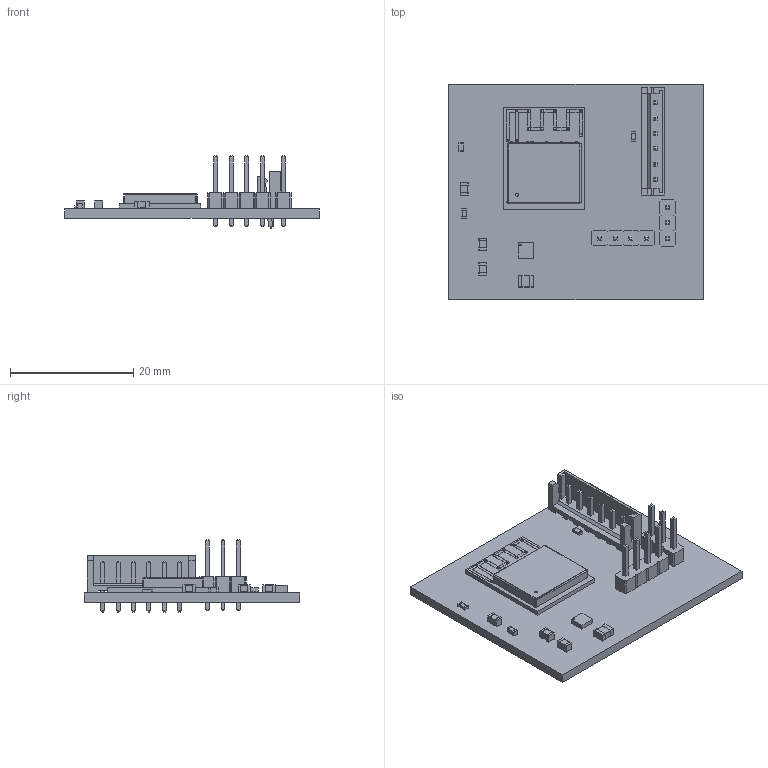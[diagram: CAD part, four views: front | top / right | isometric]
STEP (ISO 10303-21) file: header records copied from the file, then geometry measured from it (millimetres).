
FILE_DESCRIPTION(('KiCad electronic assembly'),'2;1');
FILE_NAME('Vent.step','2026-06-02T09:10:04',('Pcbnew'),('Kicad'), 'Open CASCADE STEP processor 7.9','KiCad to STEP converter','Unknown' );
FILE_SCHEMA(('AUTOMOTIVE_DESIGN { 1 0 10303 214 1 1 1 1 }'));
Length unit declared in the file: millimetre
Products named in the file (384): Vent 1; ESP32-H2-MINI-1; PCB_ESP32-C3-MINI-1_V1(2)^PCB_ESP32-C3-MINI-1_V1; DesignRootModel^PCB_ESP32-C3-MINI-1_V1(2)_PCB_ESP32-C3-MINI-1_V1; Submodel-SOD882_part^DesignRootModel_PCB_ESP32-C3-MINI-1_V1(2)_PCB_
ESP32-C3-MINI-1_V1; DFN1006.STEP^Submodel-SOD882_part_DesignRootModel_PCB_ESP32-C3-MINI-1_
V1(2)_PCB_ESP32-C3-MINI-1_V1; DFN1006.STEP^DFN1006.STEP_Submodel-SOD882_part_DesignRootModel_PCB_
ESP32-C3-MINI-1_V1(2)_PCB_ESP32-C3-MINI-1_V1; Submodel-R0201_part^DesignRootModel_PCB_ESP32-C3-MINI-1_V1(2)_PCB_
ESP32-C3-MINI-1_V1; R0201_20210301.STEP^Submodel-R0201_part_DesignRootModel_PCB_
ESP32-C3-MINI-1_V1(2)_PCB_ESP32-C3-MINI-1_V1; R0201_20210301.STEP^R0201_20210301.STEP_Submodel-R0201_part_
DesignRootModel_PCB_ESP32-C3-MINI-1_V1(2)_PCB_ESP32-C3-MINI-1_V1; Submodel-MINI-ANT-TYPED-H_1968823293_part^DesignRootModel_PCB_
ESP32-C3-MINI-1_V1(2)_PCB_ESP32-C3-MINI-1_V1; Submodel-noModelForPart_MINI-ANT-TYPED-H_
1968823293^Submodel-MINI-ANT-TYPED-H_1968823293_part_DesignRootModel_
PCB_ESP32-C3-MINI-1_V1(2)_PCB_ESP32-C3-MINI-1_V1; placementOutline^Submodel-noModelForPart_MINI-ANT-TYPED-H_1968823293_
Submodel-MINI-ANT-TYPED-H_1968823293_part_DesignRootModel_PCB_
ESP32-C3-MINI-1_V1(2)_PCB_ESP32-C3-MINI-1_V1; placementOutline-0^Submodel-noModelForPart_MINI-ANT-TYPED-H_1968823293_
Submodel-MINI-ANT-TYPED-H_1968823293_part_DesignRootModel_PCB_
ESP32-C3-MINI-1_V1(2)_PCB_ESP32-C3-MINI-1_V1; placementOutline-1^Submodel-noModelForPart_MINI-ANT-TYPED-H_1968823293_
Submodel-MINI-ANT-TYPED-H_1968823293_part_DesignRootModel_PCB_
ESP32-C3-MINI-1_V1(2)_PCB_ESP32-C3-MINI-1_V1; placementOutline-2^Submodel-noModelForPart_MINI-ANT-TYPED-H_1968823293_
Submodel-MINI-ANT-TYPED-H_1968823293_part_DesignRootModel_PCB_
ESP32-C3-MINI-1_V1(2)_PCB_ESP32-C3-MINI-1_V1; placementOutline-3^Submodel-noModelForPart_MINI-ANT-TYPED-H_1968823293_
Submodel-MINI-ANT-TYPED-H_1968823293_part_DesignRootModel_PCB_
ESP32-C3-MINI-1_V1(2)_PCB_ESP32-C3-MINI-1_V1; placementOutline-4^Submodel-noModelForPart_MINI-ANT-TYPED-H_1968823293_
Submodel-MINI-ANT-TYPED-H_1968823293_part_DesignRootModel_PCB_
ESP32-C3-MINI-1_V1(2)_PCB_ESP32-C3-MINI-1_V1; placementOutline-5^Submodel-noModelForPart_MINI-ANT-TYPED-H_1968823293_
Submodel-MINI-ANT-TYPED-H_1968823293_part_DesignRootModel_PCB_
ESP32-C3-MINI-1_V1(2)_PCB_ESP32-C3-MINI-1_V1; trace_4^Submodel-MINI-ANT-TYPED-H_1968823293_part_DesignRootModel_PCB_
ESP32-C3-MINI-1_V1(2)_PCB_ESP32-C3-MINI-1_V1; trace_1^Submodel-MINI-ANT-TYPED-H_1968823293_part_DesignRootModel_PCB_
ESP32-C3-MINI-1_V1(2)_PCB_ESP32-C3-MINI-1_V1; Submodel-C0402_part^DesignRootModel_PCB_ESP32-C3-MINI-1_V1(2)_PCB_
ESP32-C3-MINI-1_V1; C0402_20210301.STEP^Submodel-C0402_part_DesignRootModel_PCB_
ESP32-C3-MINI-1_V1(2)_PCB_ESP32-C3-MINI-1_V1; C0402_20210301.STEP^C0402_20210301.STEP_Submodel-C0402_part_
DesignRootModel_PCB_ESP32-C3-MINI-1_V1(2)_PCB_ESP32-C3-MINI-1_V1; Submodel-C0201_part^DesignRootModel_PCB_ESP32-C3-MINI-1_V1(2)_PCB_
ESP32-C3-MINI-1_V1; C0201_20210301.STEP^Submodel-C0201_part_DesignRootModel_PCB_
ESP32-C3-MINI-1_V1(2)_PCB_ESP32-C3-MINI-1_V1; C0201_20210301.STEP^C0201_20210301.STEP_Submodel-C0201_part_
DesignRootModel_PCB_ESP32-C3-MINI-1_V1(2)_PCB_ESP32-C3-MINI-1_V1; Submodel-L0201_part^DesignRootModel_PCB_ESP32-C3-MINI-1_V1(2)_PCB_
ESP32-C3-MINI-1_V1; L0201_20210301.STEP^Submodel-L0201_part_DesignRootModel_PCB_
ESP32-C3-MINI-1_V1(2)_PCB_ESP32-C3-MINI-1_V1; L0201_20210301.STEP^L0201_20210301.STEP_Submodel-L0201_part_
DesignRootModel_PCB_ESP32-C3-MINI-1_V1(2)_PCB_ESP32-C3-MINI-1_V1; Submodel-XTAL3225_part^DesignRootModel_PCB_ESP32-C3-MINI-1_V1(2)_PCB_
ESP32-C3-MINI-1_V1; XTAL3225_20210301.STEP^Submodel-XTAL3225_part_DesignRootModel_PCB_
ESP32-C3-MINI-1_V1(2)_PCB_ESP32-C3-MINI-1_V1; XTAL3225_20210301.STEP^XTAL3225_20210301.STEP_Submodel-XTAL3225_part_
DesignRootModel_PCB_ESP32-C3-MINI-1_V1(2)_PCB_ESP32-C3-MINI-1_V1; Submodel-QFN32_0P5_5_part^DesignRootModel_PCB_ESP32-C3-MINI-1_V1(2)_
PCB_ESP32-C3-MINI-1_V1; ESP32-C3_20210301.STEP^Submodel-QFN32_0P5_5_part_DesignRootModel_PCB_
ESP32-C3-MINI-1_V1(2)_PCB_ESP32-C3-MINI-1_V1; ESP32-C3_20210301.STEP^ESP32-C3_20210301.STEP_Submodel-QFN32_0P5_5_
part_DesignRootModel_PCB_ESP32-C3-MINI-1_V1(2)_PCB_ESP32-C3-MINI-1_V1; uid__4^DesignRootModel_PCB_ESP32-C3-MINI-1_V1(2)_PCB_ESP32-C3-MINI-1_
V1; uid__4-22^DesignRootModel_PCB_ESP32-C3-MINI-1_V1(2)_PCB_
ESP32-C3-MINI-1_V1; uid__4-23^DesignRootModel_PCB_ESP32-C3-MINI-1_V1(2)_PCB_
ESP32-C3-MINI-1_V1; uid__4-24^DesignRootModel_PCB_ESP32-C3-MINI-1_V1(2)_PCB_
ESP32-C3-MINI-1_V1 ...
Assembly tree (399 placements, depth 7):
  Vent 1
    ESP32-H2-MINI-1
      PCB_ESP32-C3-MINI-1_V1(2)^PCB_ESP32-C3-MINI-1_V1
        DesignRootModel^PCB_ESP32-C3-MINI-1_V1(2)_PCB_ESP32-C3-MINI-1_V1
          Submodel-SOD882_part^DesignRootModel_PCB_ESP32-C3-MINI-1_V1(2)_PCB_
ESP32-C3-MINI-1_V1
            DFN1006.STEP^Submodel-SOD882_part_DesignRootModel_PCB_ESP32-C3-MINI-1_
V1(2)_PCB_ESP32-C3-MINI-1_V1
              DFN1006.STEP^DFN1006.STEP_Submodel-SOD882_part_DesignRootModel_PCB_
ESP32-C3-MINI-1_V1(2)_PCB_ESP32-C3-MINI-1_V1
          Submodel-R0201_part^DesignRootModel_PCB_ESP32-C3-MINI-1_V1(2)_PCB_
ESP32-C3-MINI-1_V1
            R0201_20210301.STEP^Submodel-R0201_part_DesignRootModel_PCB_
ESP32-C3-MINI-1_V1(2)_PCB_ESP32-C3-MINI-1_V1
              R0201_20210301.STEP^R0201_20210301.STEP_Submodel-R0201_part_
DesignRootModel_PCB_ESP32-C3-MINI-1_V1(2)_PCB_ESP32-C3-MINI-1_V1
          Submodel-MINI-ANT-TYPED-H_1968823293_part^DesignRootModel_PCB_
ESP32-C3-MINI-1_V1(2)_PCB_ESP32-C3-MINI-1_V1
            Submodel-noModelForPart_MINI-ANT-TYPED-H_
1968823293^Submodel-MINI-ANT-TYPED-H_1968823293_part_DesignRootModel_
PCB_ESP32-C3-MINI-1_V1(2)_PCB_ESP32-C3-MINI-1_V1
              placementOutline^Submodel-noModelForPart_MINI-ANT-TYPED-H_1968823293_
Submodel-MINI-ANT-TYPED-H_1968823293_part_DesignRootModel_PCB_
ESP32-C3-MINI-1_V1(2)_PCB_ESP32-C3-MINI-1_V1
              placementOutline-0^Submodel-noModelForPart_MINI-ANT-TYPED-H_1968823293_
Submodel-MINI-ANT-TYPED-H_1968823293_part_DesignRootModel_PCB_
ESP32-C3-MINI-1_V1(2)_PCB_ESP32-C3-MINI-1_V1
              placementOutline-1^Submodel-noModelForPart_MINI-ANT-TYPED-H_1968823293_
Submodel-MINI-ANT-TYPED-H_1968823293_part_DesignRootModel_PCB_
ESP32-C3-MINI-1_V1(2)_PCB_ESP32-C3-MINI-1_V1
              placementOutline-2^Submodel-noModelForPart_MINI-ANT-TYPED-H_1968823293_
Submodel-MINI-ANT-TYPED-H_1968823293_part_DesignRootModel_PCB_
ESP32-C3-MINI-1_V1(2)_PCB_ESP32-C3-MINI-1_V1
              placementOutline-3^Submodel-noModelForPart_MINI-ANT-TYPED-H_1968823293_
Submodel-MINI-ANT-TYPED-H_1968823293_part_DesignRootModel_PCB_
ESP32-C3-MINI-1_V1(2)_PCB_ESP32-C3-MINI-1_V1
              placementOutline-4^Submodel-noModelForPart_MINI-ANT-TYPED-H_1968823293_
Submodel-MINI-ANT-TYPED-H_1968823293_part_DesignRootModel_PCB_
ESP32-C3-MINI-1_V1(2)_PCB_ESP32-C3-MINI-1_V1
              placementOutline-5^Submodel-noModelForPart_MINI-ANT-TYPED-H_1968823293_
Submodel-MINI-ANT-TYPED-H_1968823293_part_DesignRootModel_PCB_
ESP32-C3-MINI-1_V1(2)_PCB_ESP32-C3-MINI-1_V1
            trace_4^Submodel-MINI-ANT-TYPED-H_1968823293_part_DesignRootModel_PCB_
ESP32-C3-MINI-1_V1(2)_PCB_ESP32-C3-MINI-1_V1
            trace_1^Submodel-MINI-ANT-TYPED-H_1968823293_part_DesignRootModel_PCB_
ESP32-C3-MINI-1_V1(2)_PCB_ESP32-C3-MINI-1_V1
          Submodel-C0402_part^DesignRootModel_PCB_ESP32-C3-MINI-1_V1(2)_PCB_
ESP32-C3-MINI-1_V1
            C0402_20210301.STEP^Submodel-C0402_part_DesignRootModel_PCB_
ESP32-C3-MINI-1_V1(2)_PCB_ESP32-C3-MINI-1_V1
              C0402_20210301.STEP^C0402_20210301.STEP_Submodel-C0402_part_
DesignRootModel_PCB_ESP32-C3-MINI-1_V1(2)_PCB_ESP32-C3-MINI-1_V1
          Submodel-R0201_part^DesignRootModel_PCB_ESP32-C3-MINI-1_V1(2)_PCB_
ESP32-C3-MINI-1_V1
            R0201_20210301.STEP^Submodel-R0201_part_DesignRootModel_PCB_
ESP32-C3-MINI-1_V1(2)_PCB_ESP32-C3-MINI-1_V1
              R0201_20210301.STEP^R0201_20210301.STEP_Submodel-R0201_part_
DesignRootModel_PCB_ESP32-C3-MINI-1_V1(2)_PCB_ESP32-C3-MINI-1_V1
          Submodel-C0201_part^DesignRootModel_PCB_ESP32-C3-MINI-1_V1(2)_PCB_
ESP32-C3-MINI-1_V1
            C0201_20210301.STEP^Submodel-C0201_part_DesignRootModel_PCB_
ESP32-C3-MINI-1_V1(2)_PCB_ESP32-C3-MINI-1_V1
              C0201_20210301.STEP^C0201_20210301.STEP_Submodel-C0201_part_
DesignRootModel_PCB_ESP32-C3-MINI-1_V1(2)_PCB_ESP32-C3-MINI-1_V1
          Submodel-R0201_part^DesignRootModel_PCB_ESP32-C3-MINI-1_V1(2)_PCB_
ESP32-C3-MINI-1_V1
            R0201_20210301.STEP^Submodel-R0201_part_DesignRootModel_PCB_
ESP32-C3-MINI-1_V1(2)_PCB_ESP32-C3-MINI-1_V1
              R0201_20210301.STEP^R0201_20210301.STEP_Submodel-R0201_part_
DesignRootModel_PCB_ESP32-C3-MINI-1_V1(2)_PCB_ESP32-C3-MINI-1_V1
          Submodel-C0201_part^DesignRootModel_PCB_ESP32-C3-MINI-1_V1(2)_PCB_
ESP32-C3-MINI-1_V1
            C0201_20210301.STEP^Submodel-C0201_part_DesignRootModel_PCB_
ESP32-C3-MINI-1_V1(2)_PCB_ESP32-C3-MINI-1_V1
              C0201_20210301.STEP^C0201_20210301.STEP_Submodel-C0201_part_
DesignRootModel_PCB_ESP32-C3-MINI-1_V1(2)_PCB_ESP32-C3-MINI-1_V1
          Submodel-C0201_part^DesignRootModel_PCB_ESP32-C3-MINI-1_V1(2)_PCB_
ESP32-C3-MINI-1_V1
            C0201_20210301.STEP^Submodel-C0201_part_DesignRootModel_PCB_
ESP32-C3-MINI-1_V1(2)_PCB_ESP32-C3-MINI-1_V1
              C0201_20210301.STEP^C0201_20210301.STEP_Submodel-C0201_part_
DesignRootModel_PCB_ESP32-C3-MINI-1_V1(2)_PCB_ESP32-C3-MINI-1_V1
          Submodel-C0201_part^DesignRootModel_PCB_ESP32-C3-MINI-1_V1(2)_PCB_
ESP32-C3-MINI-1_V1
            C0201_20210301.STEP^Submodel-C0201_part_DesignRootModel_PCB_
ESP32-C3-MINI-1_V1(2)_PCB_ESP32-C3-MINI-1_V1
              C0201_20210301.STEP^C0201_20210301.STEP_Submodel-C0201_part_
DesignRootModel_PCB_ESP32-C3-MINI-1_V1(2)_PCB_ESP32-C3-MINI-1_V1
          Submodel-C0201_part^DesignRootModel_PCB_ESP32-C3-MINI-1_V1(2)_PCB_
ESP32-C3-MINI-1_V1
            C0201_20210301.STEP^Submodel-C0201_part_DesignRootModel_PCB_
ESP32-C3-MINI-1_V1(2)_PCB_ESP32-C3-MINI-1_V1
              C0201_20210301.STEP^C0201_20210301.STEP_Submodel-C0201_part_
DesignRootModel_PCB_ESP32-C3-MINI-1_V1(2)_PCB_ESP32-C3-MINI-1_V1
          Submodel-C0201_part^DesignRootModel_PCB_ESP32-C3-MINI-1_V1(2)_PCB_
ESP32-C3-MINI-1_V1
            C0201_20210301.STEP^Submodel-C0201_part_DesignRootModel_PCB_
ESP32-C3-MINI-1_V1(2)_PCB_ESP32-C3-MINI-1_V1
              C0201_20210301.STEP^C0201_20210301.STEP_Submodel-C0201_part_
DesignRootModel_PCB_ESP32-C3-MINI-1_V1(2)_PCB_ESP32-C3-MINI-1_V1
          Submodel-C0201_part^DesignRootModel_PCB_ESP32-C3-MINI-1_V1(2)_PCB_
ESP32-C3-MINI-1_V1
            C0201_20210301.STEP^Submodel-C0201_part_DesignRootModel_PCB_
ESP32-C3-MINI-1_V1(2)_PCB_ESP32-C3-MINI-1_V1
              C0201_20210301.STEP^C0201_20210301.STEP_Submodel-C0201_part_
DesignRootModel_PCB_ESP32-C3-MINI-1_V1(2)_PCB_ESP32-C3-MINI-1_V1
          Submodel-C0201_part^DesignRootModel_PCB_ESP32-C3-MINI-1_V1(2)_PCB_
ESP32-C3-MINI-1_V1
            C0201_20210301.STEP^Submodel-C0201_part_DesignRootModel_PCB_
ESP32-C3-MINI-1_V1(2)_PCB_ESP32-C3-MINI-1_V1
              C0201_20210301.STEP^C0201_20210301.STEP_Submodel-C0201_part_
DesignRootModel_PCB_ESP32-C3-MINI-1_V1(2)_PCB_ESP32-C3-MINI-1_V1
          Submodel-C0201_part^DesignRootModel_PCB_ESP32-C3-MINI-1_V1(2)_PCB_
ESP32-C3-MINI-1_V1
            C0201_20210301.STEP^Submodel-C0201_part_DesignRootModel_PCB_
ESP32-C3-MINI-1_V1(2)_PCB_ESP32-C3-MINI-1_V1
              C0201_20210301.STEP^C0201_20210301.STEP_Submodel-C0201_part_
DesignRootModel_PCB_ESP32-C3-MINI-1_V1(2)_PCB_ESP32-C3-MINI-1_V1
          Submodel-C0201_part^DesignRootModel_PCB_ESP32-C3-MINI-1_V1(2)_PCB_
ESP32-C3-MINI-1_V1
            C0201_20210301.STEP^Submodel-C0201_part_DesignRootModel_PCB_
ESP32-C3-MINI-1_V1(2)_PCB_ESP32-C3-MINI-1_V1
              C0201_20210301.STEP^C0201_20210301.STEP_Submodel-C0201_part_
DesignRootModel_PCB_ESP32-C3-MINI-1_V1(2)_PCB_ESP32-C3-MINI-1_V1
Bounding box: 41.3 x 35 x 11.74 mm (x, y, z)
Volume: 2698.2 mm3; surface area: 5439 mm2
Topology: 376 solids, 377 shells, 3765 faces, 8408 edges, 5374 vertices
Faces by surface type: plane 2515, cylinder 1080, sphere 112, bspline 54, torus 4
Full cylindrical faces by diameter (mm): 0.25 x1, 0.95 x6, 1 x7
Entity records: 101397 total; most frequent: CARTESIAN_POINT 18855, DIRECTION 15354, ORIENTED_EDGE 13720, EDGE_CURVE 6860, AXIS2_PLACEMENT_3D 5133, LINE 5088, VECTOR 5088, VERTEX_POINT 4506
